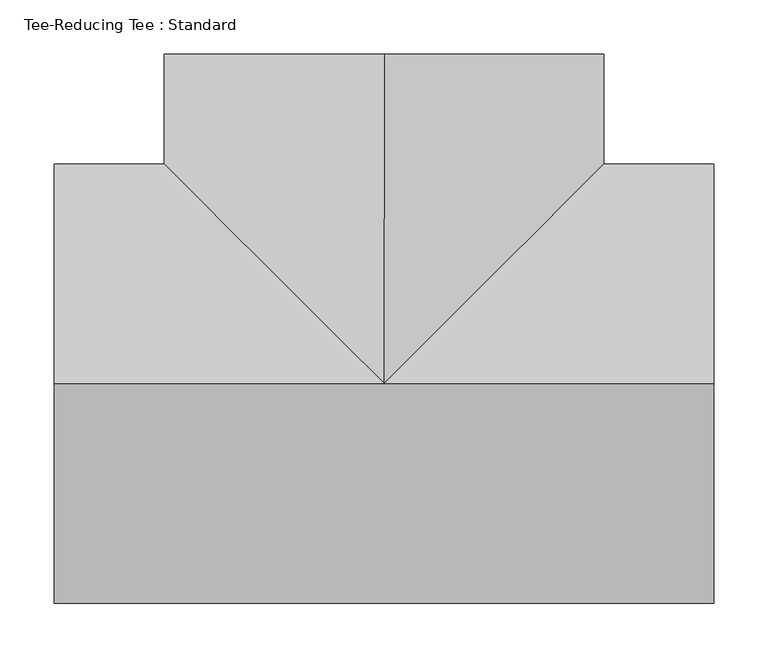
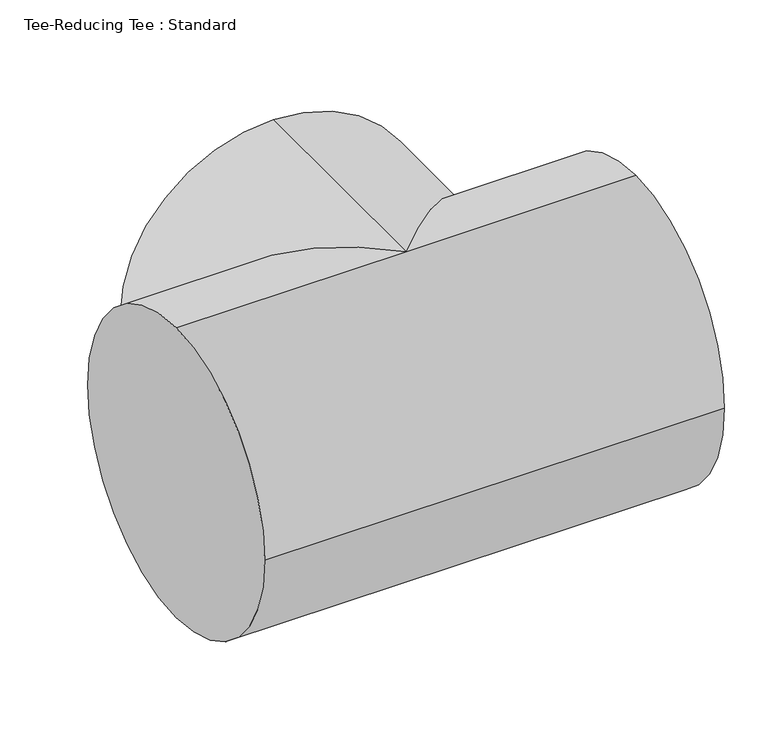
"""IFC4 building model written with IfcOpenShell, lengths in millimetres: pipe fitting geometry, Tee-Reducing Tee : Standard."""

from ifc_helpers import new_model, si_unit, frame, origin, place, context, project, spatial, circle_curve, ellipse_curve, source, transform, mapped, element, save
from ifc_brep_helpers import plane_surface, cylinder_surface, advanced_brep


def tee_reducing_tee_standard_adc2bc86(model_context):
    return source(origin(), model_context, "Body", "AdvancedBrep", [
        advanced_brep(
        [(-282.7746149, 0.0, 203.2), (-282.7746149, 203.2, 0.0), (-282.7746149, 0.0, -203.2), (-282.7746149, -203.2, 0.0), (326.8253851, 0.0, 203.2), (326.8253851, -203.2, 0.0), (326.8253851, 0.0, -203.2), (326.8253851, 203.2, 0.0), (22.0253851, 0.0, 203.2), (-181.1746149, 203.2, 0.0), (225.2253851, 203.2, 0.0), (22.0253851, 0.0, -203.2), (22.0253851, 304.8, 203.2), (225.2253851, 304.8, 0.0), (22.0253851, 304.8, -203.2), (-181.1746149, 304.8, 0.0)],
        [
            (0, 1, circle_curve(frame((-282.7746149, 0.0, 0.0), z_axis=(-1.0, 0.0, 0.0), x_axis=(0.0, 1.0, 0.0)), 203.2)),
            (1, 2, circle_curve(frame((-282.7746149, 0.0, 0.0), z_axis=(-1.0, 0.0, 0.0), x_axis=(0.0, 1.0, 0.0)), 203.2)),
            (2, 3, circle_curve(frame((-282.7746149, 0.0, 0.0), z_axis=(-1.0, 0.0, 0.0), x_axis=(0.0, 1.0, 0.0)), 203.2)),
            (3, 0, circle_curve(frame((-282.7746149, 0.0, 0.0), z_axis=(-1.0, 0.0, 0.0), x_axis=(0.0, 1.0, 0.0)), 203.2)),
            (4, 5, circle_curve(frame((326.8253851, 0.0, 0.0), z_axis=(1.0, 0.0, 0.0), x_axis=(0.0, 1.0, 0.0)), 203.2)),
            (5, 6, circle_curve(frame((326.8253851, 0.0, 0.0), z_axis=(1.0, 0.0, 0.0), x_axis=(0.0, 1.0, 0.0)), 203.2)),
            (6, 7, circle_curve(frame((326.8253851, 0.0, 0.0), z_axis=(1.0, 0.0, 0.0), x_axis=(0.0, 1.0, 0.0)), 203.2)),
            (7, 4, circle_curve(frame((326.8253851, 0.0, 0.0), z_axis=(1.0, 0.0, 0.0), x_axis=(0.0, 1.0, 0.0)), 203.2)),
            (0, 8),
            (8, 9, ellipse_curve(frame((22.0253851, 0.0, 0.0), z_axis=(-0.7071067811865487, -0.7071067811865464, 0.0), x_axis=(-0.7071067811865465, 0.7071067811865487, 0.0)), 287.3681959, 203.2)),
            (9, 1),
            (7, 10),
            (10, 8, ellipse_curve(frame((22.0253851, 0.0, 0.0), z_axis=(0.7071067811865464, -0.7071067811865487, 0.0), x_axis=(-0.7071067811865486, -0.7071067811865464, 0.0)), 287.3681959, 203.2)),
            (8, 4),
            (9, 11, ellipse_curve(frame((22.0253851, 0.0, 0.0), z_axis=(-0.7071067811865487, -0.7071067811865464, 0.0), x_axis=(-0.7071067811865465, 0.7071067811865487, 0.0)), 287.3681959, 203.2)),
            (11, 2),
            (6, 11),
            (11, 10, ellipse_curve(frame((22.0253851, 0.0, 0.0), z_axis=(0.7071067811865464, -0.7071067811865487, 0.0), x_axis=(-0.7071067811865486, -0.7071067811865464, 0.0)), 287.3681959, 203.2)),
            (5, 3),
            (12, 13, circle_curve(frame((22.0253851, 304.8, 0.0), z_axis=(0.0, 1.0, 0.0), x_axis=(-1.0, 0.0, 0.0)), 203.2)),
            (13, 14, circle_curve(frame((22.0253851, 304.8, 0.0), z_axis=(0.0, 1.0, 0.0), x_axis=(-1.0, 0.0, 0.0)), 203.2)),
            (14, 15, circle_curve(frame((22.0253851, 304.8, 0.0), z_axis=(0.0, 1.0, 0.0), x_axis=(-1.0, 0.0, 0.0)), 203.2)),
            (15, 12, circle_curve(frame((22.0253851, 304.8, 0.0), z_axis=(0.0, 1.0, 0.0), x_axis=(-1.0, 0.0, 0.0)), 203.2)),
            (15, 9),
            (8, 12),
            (14, 11),
            (13, 10),
        ],
        [
            plane_surface(frame((-282.7746149, 0.0, 0.0), z_axis=(-1.0, 0.0, 0.0), x_axis=(0.0, 0.0, 1.0))),
            plane_surface(frame((326.8253851, 0.0, 0.0), z_axis=(1.0, 0.0, 0.0), x_axis=(0.0, 0.0, 1.0))),
            cylinder_surface(frame((-282.7746149, 0.0, 0.0), z_axis=(-1.0, 0.0, 0.0), x_axis=(0.0, 1.0, 0.0)), 203.2),
            plane_surface(frame((22.0253851, 304.8, 0.0), z_axis=(0.0, 1.0, 0.0), x_axis=(0.0, 0.0, 1.0))),
            cylinder_surface(frame((22.0253851, 0.0, 0.0), z_axis=(0.0, -1.0, 0.0), x_axis=(-1.0, 0.0, 0.0)), 203.2),
        ],
        [
            (0, [[1, 2, 3, 4]]),
            (1, [[5, 6, 7, 8]]),
            (2, [[-1, 9, 10, 11]]),
            (2, [[-8, 12, 13, 14]]),
            (2, [[-2, -11, 15, 16]]),
            (2, [[-7, 17, 18, -12]]),
            (2, [[-3, -16, -17, -6, 19]]),
            (2, [[-4, -19, -5, -14, -9]]),
            (3, [[20, 21, 22, 23]]),
            (4, [[-23, 24, -10, 25]]),
            (4, [[-22, 26, -15, -24]]),
            (4, [[-21, 27, -18, -26]]),
            (4, [[-20, -25, -13, -27]]),
        ],
    ),
    ])


if __name__ == "__main__":
    model = new_model("IFC4")
    model_context = context("Model", 3, world=origin())
    ifc_project = project(units=[si_unit("LENGTHUNIT", "METRE", prefix="MILLI")], contexts=[model_context])
    site = spatial("IfcSite", under=ifc_project)
    building = spatial("IfcBuilding", under=site)
    placement = place(None, origin())
    tee_reducing_tee_standard_shape = tee_reducing_tee_standard_adc2bc86(model_context)
    element("IfcPipeFitting", 1, ObjectType="Tee-Reducing Tee : Standard", at=placement, inside=building, context=model_context, shape_type="MappedRepresentation", body=[
        mapped(tee_reducing_tee_standard_shape, transform((0.0, 0.0, 0.0), x_axis=(1.0, 0.0, 0.0), y_axis=(0.0, 1.0, 0.0), z_axis=(0.0, 0.0, 1.0))),
    ])
    save(model, "model.ifc")
